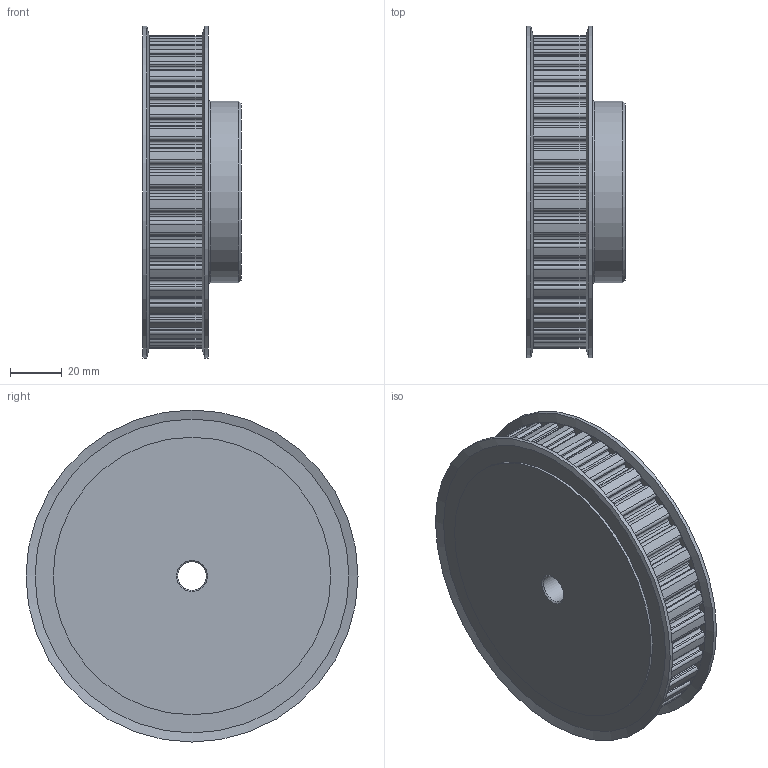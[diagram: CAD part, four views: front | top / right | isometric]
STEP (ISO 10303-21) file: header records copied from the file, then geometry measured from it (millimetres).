
FILE_DESCRIPTION(/* description */ ('PULEGGE 40 L 075 F'),/* implementation_level */ '2;1');
FILE_NAME(/* name */ 'w:\documenti\Disegni dwg\Catalogo\Pulegge\L\075\stp\42075040.stp',/* time_stamp */ '2023-05-18T12:29:19+02:00',/* author */ ('carlo.bersi'),/* organization */ (''),/* preprocessor_version */ 'ST-DEVELOPER v19',/* originating_system */ 'Autodesk Inventor 2023',/* authorisation */ '');
FILE_SCHEMA (('CONFIG_CONTROL_DESIGN'));
Length unit declared in the file: millimetre
Products named in the file (3): 42075040; 42075040_1; 49200078
Assembly tree (3 placements, depth 2):
  42075040
    42075040_1
    49200078  x2
Bounding box: 38 x 128 x 128 mm (x, y, z)
Volume: 326389.4 mm3; surface area: 55531.2 mm2
Topology: 3 solids, 3 shells, 345 faces, 1001 edges, 665 vertices
Faces by surface type: cylinder 208, plane 129, cone 7, torus 1
Full cylindrical faces by diameter (mm): 11 x1, 70 x1, 107 x4, 128 x2
Entity records: 11537 total; most frequent: DIRECTION 2101, CARTESIAN_POINT 1995, ORIENTED_EDGE 1982, EDGE_CURVE 991, AXIS2_PLACEMENT_3D 765, VERTEX_POINT 659, LINE 571, VECTOR 571
